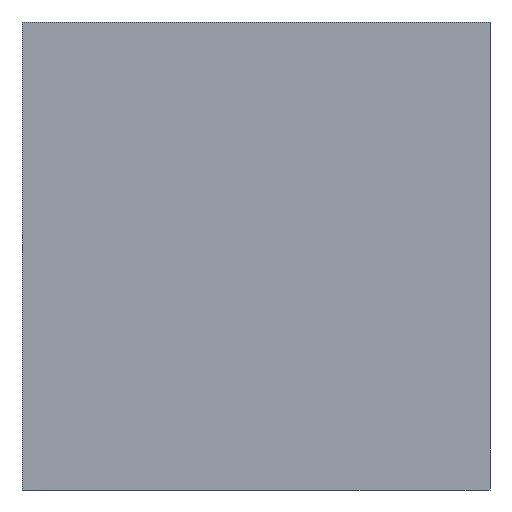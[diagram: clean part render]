
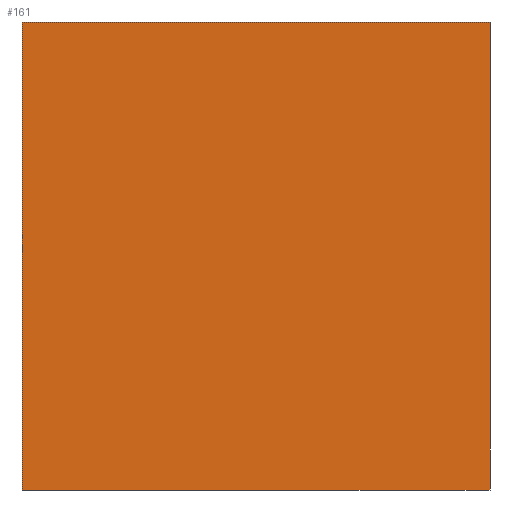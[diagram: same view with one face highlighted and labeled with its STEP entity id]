
A CAD part, front view. The second image highlights one B-rep face of the part: STEP entity #161.
In plain terms, the highlighted planar face has unit normal (0, -1, 0).
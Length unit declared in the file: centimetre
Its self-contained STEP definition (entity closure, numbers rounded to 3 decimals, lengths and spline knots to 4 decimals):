
#8 = VECTOR ( 'NONE', #527, 100. ) ;
#122 = DIRECTION ( 'NONE',  ( 1., 0., 0. ) ) ;
#161 = ADVANCED_FACE ( 'NONE', ( #858 ), #1283, .F. ) ;
#166 = DIRECTION ( 'NONE',  ( 0., 0., -1. ) ) ;
#283 = DIRECTION ( 'NONE',  ( 1., 0., 0. ) ) ;
#322 = CARTESIAN_POINT ( 'NONE',  ( 0., 0., 1000. ) ) ;
#332 = CARTESIAN_POINT ( 'NONE',  ( 1000., 0., 1000. ) ) ;
#342 = CARTESIAN_POINT ( 'NONE',  ( 1000., 0., 1000. ) ) ;
#365 = EDGE_CURVE ( 'NONE', #933, #615, #532, .T. ) ;
#421 = CARTESIAN_POINT ( 'NONE',  ( 0., 0., 1000. ) ) ;
#434 = AXIS2_PLACEMENT_3D ( 'NONE', #322, #676, #895 ) ;
#487 = CARTESIAN_POINT ( 'NONE',  ( 0., 0., 1000. ) ) ;
#490 = CARTESIAN_POINT ( 'NONE',  ( 0., 0., 0. ) ) ;
#527 = DIRECTION ( 'NONE',  ( 0., 0., -1. ) ) ;
#532 = LINE ( 'NONE', #1082, #985 ) ;
#559 = CARTESIAN_POINT ( 'NONE',  ( 0., 0., 0. ) ) ;
#574 = EDGE_CURVE ( 'NONE', #933, #1037, #1132, .T. ) ;
#615 = VERTEX_POINT ( 'NONE', #342 ) ;
#672 = CARTESIAN_POINT ( 'NONE',  ( 1000., 0., 0. ) ) ;
#676 = DIRECTION ( 'NONE',  ( 0., 1., 0. ) ) ;
#707 = EDGE_LOOP ( 'NONE', ( #954, #1346, #1350, #1240 ) ) ;
#797 = EDGE_CURVE ( 'NONE', #1037, #1151, #1031, .T. ) ;
#858 = FACE_OUTER_BOUND ( 'NONE', #707, .T. ) ;
#870 = EDGE_CURVE ( 'NONE', #615, #1151, #1096, .T. ) ;
#895 = DIRECTION ( 'NONE',  ( 0., 0., 1. ) ) ;
#933 = VERTEX_POINT ( 'NONE', #421 ) ;
#954 = ORIENTED_EDGE ( 'NONE', *, *, #797, .T. ) ;
#985 = VECTOR ( 'NONE', #122, 100. ) ;
#1031 = LINE ( 'NONE', #490, #1041 ) ;
#1037 = VERTEX_POINT ( 'NONE', #559 ) ;
#1041 = VECTOR ( 'NONE', #283, 100. ) ;
#1082 = CARTESIAN_POINT ( 'NONE',  ( 0., 0., 1000. ) ) ;
#1096 = LINE ( 'NONE', #332, #8 ) ;
#1132 = LINE ( 'NONE', #487, #1285 ) ;
#1151 = VERTEX_POINT ( 'NONE', #672 ) ;
#1240 = ORIENTED_EDGE ( 'NONE', *, *, #574, .T. ) ;
#1283 = PLANE ( 'NONE',  #434 ) ;
#1285 = VECTOR ( 'NONE', #166, 100. ) ;
#1346 = ORIENTED_EDGE ( 'NONE', *, *, #870, .F. ) ;
#1350 = ORIENTED_EDGE ( 'NONE', *, *, #365, .F. ) ;
